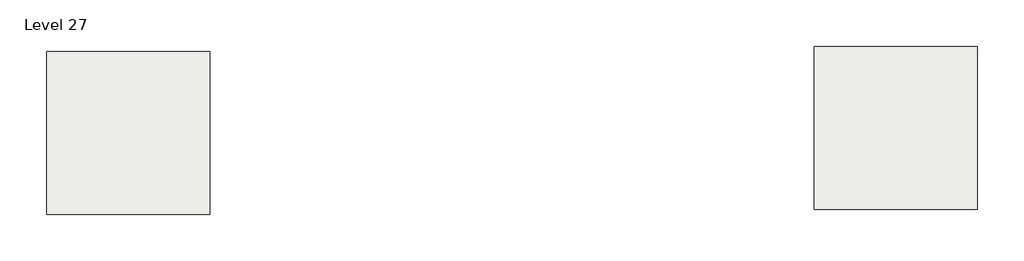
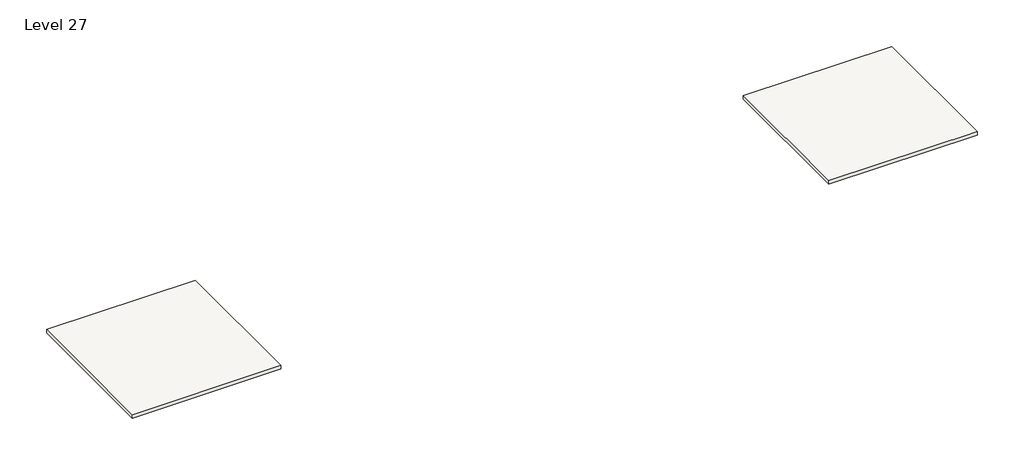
# One storey: 2 slabs.
"""IFC4 building model written with IfcOpenShell, lengths in millimetres."""

from ifc_helpers import new_model, si_unit, frame, origin, place, context, project, spatial, polyline, outline, extrude, element, save

model = new_model("IFC4")

# Units and contexts
model_context = context("Model", 3, world=origin())
ifc_project = project(units=[si_unit("LENGTHUNIT", "METRE", prefix="MILLI")], contexts=[model_context])

# Site, building, storey
site = spatial("IfcSite", under=ifc_project)
building = spatial("IfcBuilding", under=site)
storey = spatial("IfcBuildingStorey", under=building, Name="Level 27", Elevation=79248.0)

# Slabs
placement = place(None, origin())
element("IfcSlab", 1, ObjectType="Generic - 12\"", at=placement, inside=storey, context=model_context, shape_type="SweptSolid", body=[
    extrude(outline(polyline([(-19315.4161695, 7973.9495511), (-7123.4161695, 7973.9495511), (-7123.4161695, -4218.0504489), (-19315.4161695, -4218.0504489), (-19315.4161695, 7973.9495511)])), frame((0.0, 0.0, 78943.2), z_axis=(0.0, 0.0, 1.0), x_axis=(1.0, 0.0, 0.0)), (0.0, 0.0, 1.0), 304.8),
])
element("IfcSlab", 2, ObjectType="Generic - 12\"", at=placement, inside=storey, context=model_context, shape_type="SweptSolid", body=[
    extrude(outline(polyline([(38118.2903978, 8351.0904402), (50310.2903978, 8351.0904402), (50310.2903978, -3840.9095598), (38118.2903978, -3840.9095598), (38118.2903978, 8351.0904402)])), frame((0.0, 0.0, 78943.2), z_axis=(0.0, 0.0, 1.0), x_axis=(1.0, 0.0, 0.0)), (0.0, 0.0, 1.0), 304.8),
])

save(model, "model.ifc")
